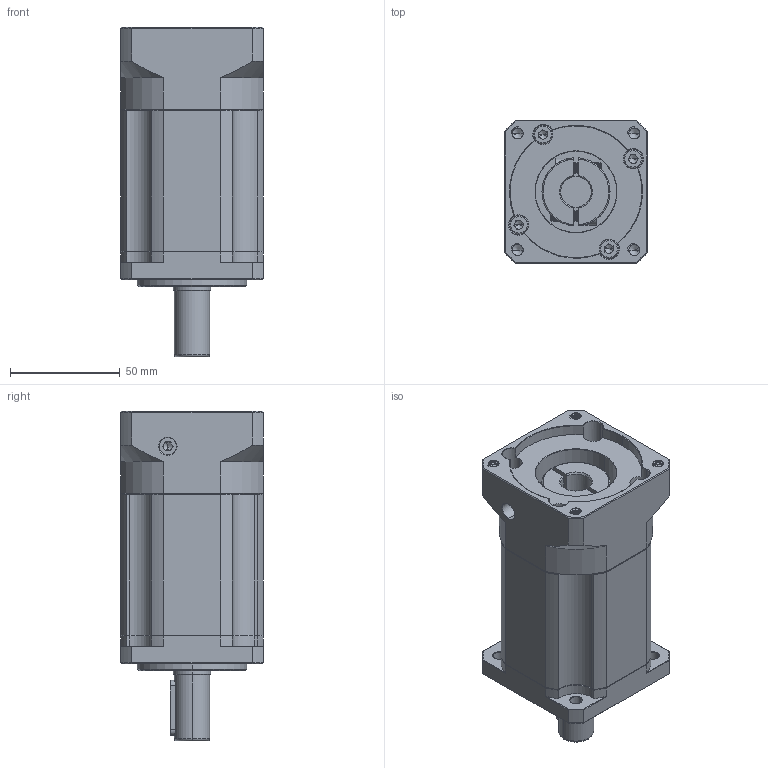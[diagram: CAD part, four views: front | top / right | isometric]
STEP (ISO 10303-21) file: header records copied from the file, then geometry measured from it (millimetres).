
FILE_DESCRIPTION (( 'STEP AP214' ), '1' );
FILE_NAME ('ZB60-D16-L3-14-60-75-M6.STEP', '2022-04-17T07:41:33', ( '' ), ( 'Microsoft' ), 'SwSTEP 2.0', 'SolidWorks 2016', '' );
FILE_SCHEMA (( 'AUTOMOTIVE_DESIGN' ));
Length unit declared in the file: millimetre
Products named in the file (1): ZB60-D16-L3-14-60-75-M6
Bounding box: 65 x 65 x 150 mm (x, y, z)
Volume: 386406.3 mm3; surface area: 63073.9 mm2
Topology: 6 solids, 6 shells, 1890 faces, 5024 edges, 3213 vertices
Faces by surface type: plane 879, cylinder 392, bspline 299, cone 286, torus 34
Entity records: 101693 total; most frequent: CARTESIAN_POINT 36302, ORIENTED_EDGE 9988, DIRECTION 8203, EDGE_CURVE 4994, VERTEX_POINT 3213, VECTOR 3047, LINE 3047, AXIS2_PLACEMENT_3D 2578
